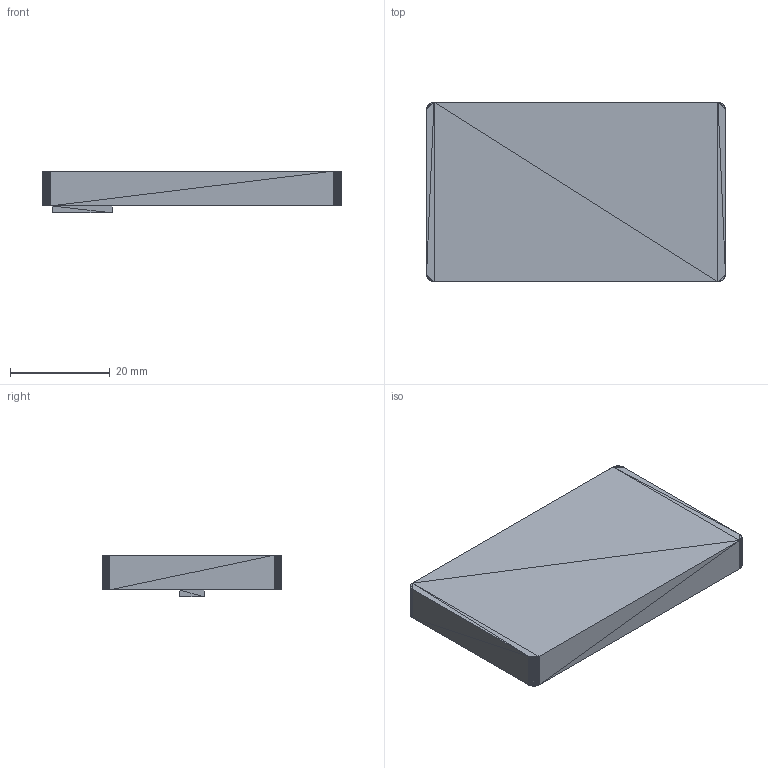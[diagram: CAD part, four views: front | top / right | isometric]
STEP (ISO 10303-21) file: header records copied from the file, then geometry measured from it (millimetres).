
FILE_DESCRIPTION(('Open CASCADE Model'),'2;1');
FILE_NAME('Open CASCADE Shape Model','2026-09-08T12:38:22',('Author'),( 'Open CASCADE'),'Open CASCADE STEP processor 7.7','Open CASCADE 7.7' ,'Unknown');
FILE_SCHEMA(('AUTOMOTIVE_DESIGN { 1 0 10303 214 1 1 1 1 }'));
Length unit declared in the file: millimetre
Products named in the file (3): Open CASCADE STEP translator 7.7 12; Open CASCADE STEP translator 7.7 12.1; Open CASCADE STEP translator 7.7 12.2
Assembly tree (2 placements, depth 2):
  Open CASCADE STEP translator 7.7 12
    Open CASCADE STEP translator 7.7 12.1
    Open CASCADE STEP translator 7.7 12.2
Bounding box: 60 x 36 x 8.4 mm (x, y, z)
Volume: 15190.4 mm3; surface area: 5809.7 mm2
Topology: 2 solids, 2 shells, 360 faces, 540 edges, 184 vertices
Faces by surface type: plane 360
Entity records: 14104 total; most frequent: DIRECTION 2346, CARTESIAN_POINT 2167, LINE 1620, VECTOR 1620, ORIENTED_EDGE 1080, PCURVE 1080, DEFINITIONAL_REPRESENTATION 1080, EDGE_CURVE 540
